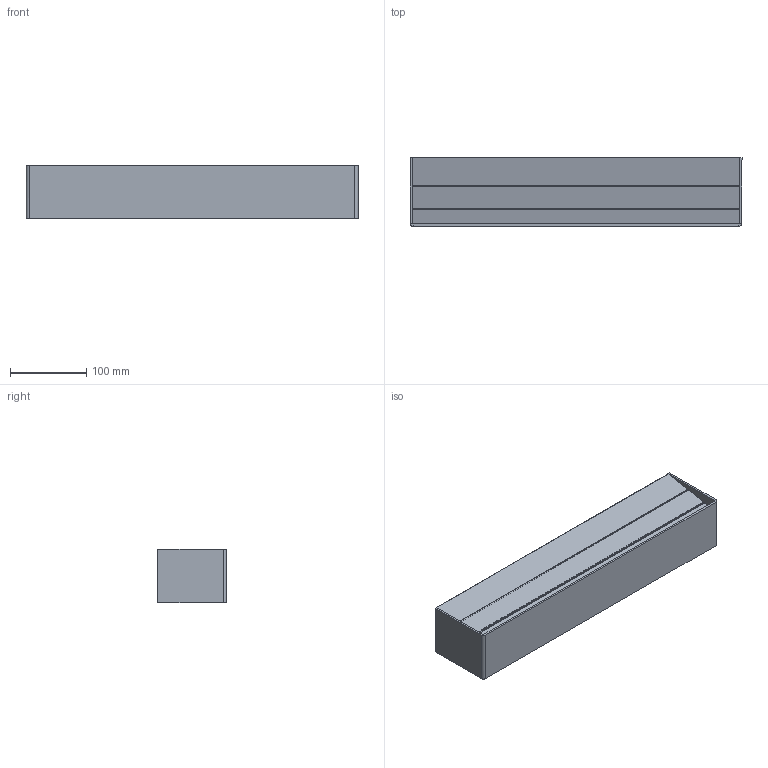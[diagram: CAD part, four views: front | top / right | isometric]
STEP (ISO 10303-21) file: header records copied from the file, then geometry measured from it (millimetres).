
FILE_DESCRIPTION(/* description */ (''),/* implementation_level */ '2;1');
FILE_NAME(/* name */ 'A-141_~3',/* time_stamp */ '2024-07-04T10:18:53+02:00',/* author */ (''),/* organization */ (''),/* preprocessor_version */ 'ST-DEVELOPER v16.5',/* originating_system */ '',/* authorisation */ '');
FILE_SCHEMA (('AUTOMOTIVE_DESIGN'));
Length unit declared in the file: millimetre
Products named in the file (1): Document
Bounding box: 436.5 x 90.24 x 70 mm (x, y, z)
Volume: 163641.3 mm3; surface area: 276933.7 mm2
Topology: 3 solids, 4 shells, 68 faces, 162 edges, 100 vertices
Faces by surface type: plane 40, bspline 28
Entity records: 2392 total; most frequent: CARTESIAN_POINT 1327, ORIENTED_EDGE 316, EDGE_CURVE 162, B_SPLINE_CURVE_WITH_KNOTS 118, VERTEX_POINT 100, EDGE_LOOP 70, ADVANCED_FACE 68, FACE_OUTER_BOUND 68
